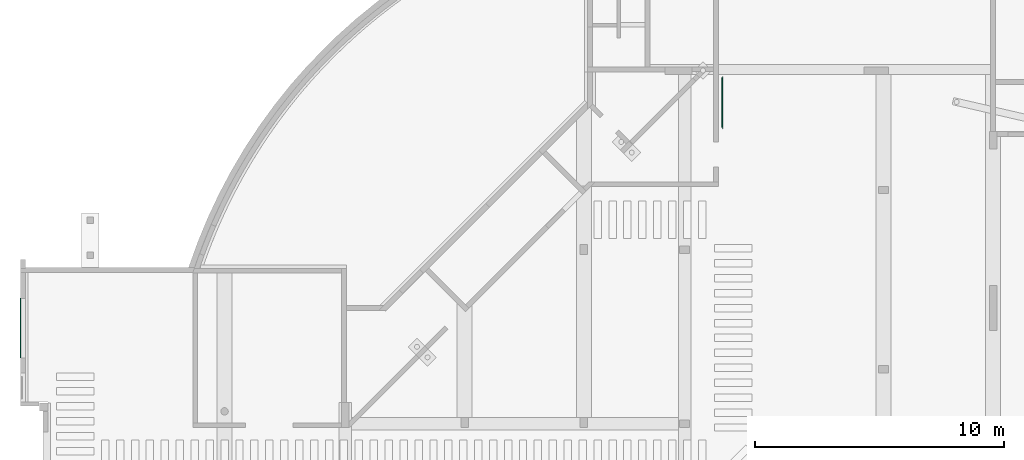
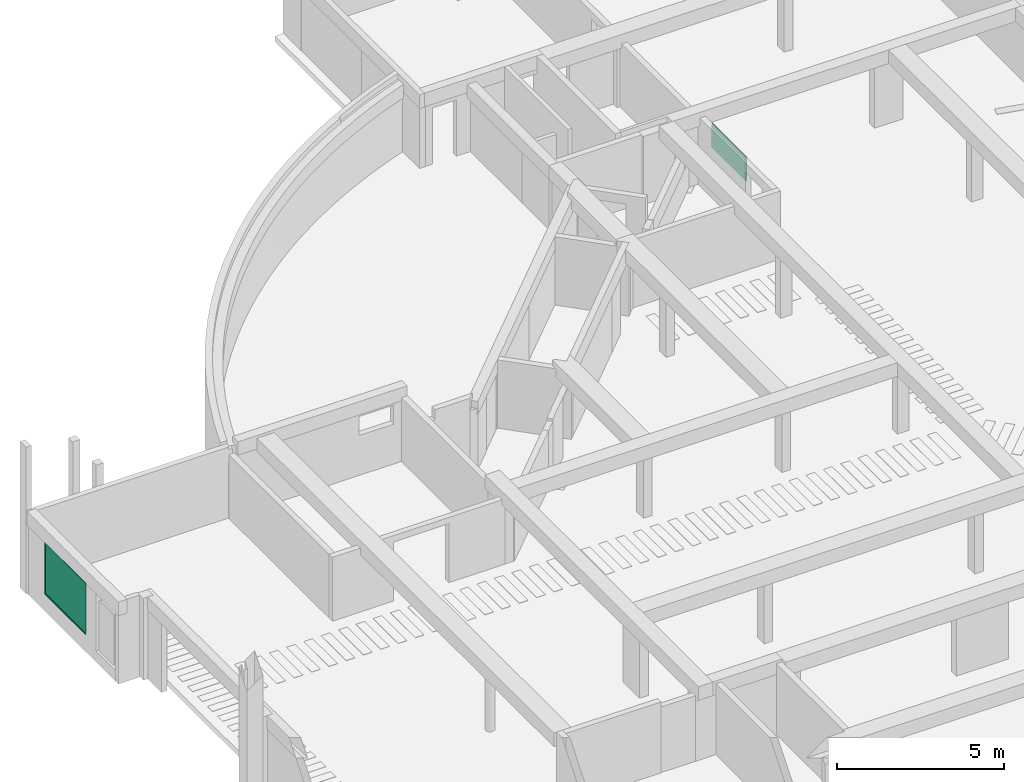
# One storey, part 12 of 12: 2 air terminals.
"""IFC4X3_ADD2 building model written with IfcOpenShell, lengths in millimetres."""

from ifc_helpers import new_model, si_unit, direction, frame, origin_with_axes, place, context, subcontext, project, spatial, polygons, source, transform, mapped, element, save


model = new_model("IFC4X3_ADD2")

# Units and contexts
model_context = context("Model", 3, precision=1e-05, world=origin_with_axes(), true_north=direction((0.0, 1.0)))
body_context = subcontext(model_context, "Body", "Model", "MODEL_VIEW")
ifc_project = project(units=[si_unit("LENGTHUNIT", "METRE", prefix="MILLI"), si_unit("AREAUNIT", "SQUARE_METRE"), si_unit("VOLUMEUNIT", "CUBIC_METRE"), si_unit("PLANEANGLEUNIT", "RADIAN"), si_unit("TIMEUNIT", "SECOND"), si_unit("MASSUNIT", "GRAM")], contexts=[model_context])

# Site, building, storey
site_placement = place(None, origin_with_axes())
site = spatial("IfcSite", under=ifc_project, at=site_placement, Name="Site", CompositionType="ELEMENT")
building_placement = place(site_placement, origin_with_axes())
building = spatial("IfcBuilding", under=site, at=building_placement, Name="IFC Building Story")
storey_placement = place(building_placement, frame((0.0, 0.0, -5940.0), z_axis=(0.0, 0.0, 1.0), x_axis=(1.0, 0.0, 0.0)))
storey = spatial("IfcBuildingStorey", under=building, at=storey_placement, Name="K20", Elevation=-5940.0)

# Air terminals
shared_shape_1 = source(origin_with_axes(), body_context, "Body", "Tessellation", [
    polygons([(1.73258740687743e-11, 2050.00000000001, 50.0), (50.0000000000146, 2050.00000000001, 50.0), (50.0000000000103, 2050.00000000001, 850.000000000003), (1.29944055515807e-11, 2050.00000000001, 850.000000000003), (45.0000000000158, 2055.00000000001, 45.0), (40.0000000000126, 2055.00000000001, 45.0), (1.29944055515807e-11, 2055.00000000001, 45.0), (1.29944055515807e-11, 2055.00000000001, 855.000000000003), (40.0000000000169, 2055.00000000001, 855.000000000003), (45.0000000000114, 2055.00000000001, 855.000000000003), (50.0000000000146, 2100.0, 0.0), (45.0000000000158, 2100.0, 0.0), (45.0000000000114, 2100.00000000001, 900.000000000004), (50.0000000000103, 2100.0, 900.000000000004), (50.0000000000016, 50.0000000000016, 850.000000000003), (4.33146851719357e-12, 50.0000000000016, 850.000000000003), (4.33146851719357e-12, 45.0000000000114, 855.000000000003), (40.0000000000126, 45.0000000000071, 855.000000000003), (45.0000000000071, 45.0000000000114, 855.000000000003), (45.0000000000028, 8.66293703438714e-12, 900.000000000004), (50.000000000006, 4.33146851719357e-12, 900.000000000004), (50.000000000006, 50.0000000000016, 50.0), (4.33146851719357e-12, 50.0000000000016, 50.0), (4.33146851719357e-12, 45.0000000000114, 45.0), (40.0000000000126, 45.0000000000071, 45.0), (45.0000000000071, 45.0000000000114, 45.0), (45.0000000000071, 4.33146851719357e-12, 0.0), (50.000000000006, 4.33146851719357e-12, 0.0)], [[[1, 2, 3, 4]], [[6, 7, 8]], [[6, 8, 9]], [[9, 10, 5]], [[9, 5, 6]], [[11, 12, 13, 14]], [[4, 3, 15, 16]], [[9, 8, 17]], [[9, 17, 18]], [[18, 19, 10]], [[18, 10, 9]], [[14, 13, 20, 21]], [[16, 15, 22, 23]], [[18, 17, 24]], [[18, 24, 25]], [[25, 26, 19]], [[25, 19, 18]], [[21, 20, 27, 28]], [[23, 22, 2, 1]], [[1, 4, 8]], [[1, 8, 7]], [[7, 24, 23]], [[7, 23, 1]], [[24, 17, 16]], [[24, 16, 23]], [[17, 8, 4]], [[17, 4, 16]], [[25, 24, 7]], [[25, 7, 6]], [[6, 5, 26]], [[6, 26, 25]], [[5, 10, 13]], [[5, 13, 12]], [[12, 27, 26]], [[12, 26, 5]], [[27, 20, 19]], [[27, 19, 26]], [[20, 13, 10]], [[20, 10, 19]], [[28, 27, 12, 11]], [[3, 2, 11]], [[3, 11, 14]], [[14, 21, 15]], [[14, 15, 3]], [[21, 28, 22]], [[21, 22, 15]], [[28, 11, 2]], [[28, 2, 22]]]),
    polygons([(1.29944055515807e-11, 2050.00000000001, 50.0), (4.33146851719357e-12, 50.0000000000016, 50.0), (4.33146851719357e-12, 50.0000000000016, 850.000000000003), (1.29944055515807e-11, 2050.00000000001, 850.000000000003), (40.0000000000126, 2050.00000000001, 50.0), (40.0000000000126, 2050.00000000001, 850.000000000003), (40.0000000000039, 50.0000000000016, 850.000000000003), (40.0000000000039, 50.0000000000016, 50.0)], [[[1, 2, 3, 4]], [[5, 6, 7, 8]], [[1, 4, 6, 5]], [[4, 3, 7, 6]], [[3, 2, 8, 7]], [[2, 1, 5, 8]]]),
])
air_terminal_1_placement = place(storey_placement, frame((-23515.0, 36311.509732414, 1350.0), z_axis=(0.0, 0.0, 1.0), x_axis=(1.0, 0.0, 0.0)))
element("IfcAirTerminal", 1, at=air_terminal_1_placement, inside=storey, Name="BB_07.14.11#01_Buitenrooster_GMO:2000 x 800 mm", ObjectType="BB_07.14.11#01_Buitenrooster_GMO:2000 x 800 mm", PredefinedType="GRILLE", context=body_context, shape_type="MappedRepresentation", body=[
    mapped(shared_shape_1, transform((0.0, 0.0, 0.0))),
])
shared_shape_2 = source(origin_with_axes(), body_context, "Body", "Tessellation", [
    polygons([(50.000000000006, 49.9999999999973, 49.9999999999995), (8.66293703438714e-12, 49.9999999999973, 49.9999999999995), (0.0, 49.9999999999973, 1850.0), (50.000000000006, 49.9999999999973, 1850.0), (5.00000000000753, 45.0000000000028, 44.9999999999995), (10.0000000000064, 45.0000000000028, 44.9999999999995), (30.0000000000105, 45.0000000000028, 44.9999999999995), (50.000000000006, 44.9999999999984, 44.9999999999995), (49.9999999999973, 44.9999999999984, 1855.0), (30.0000000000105, 44.9999999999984, 1855.0), (10.0000000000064, 44.9999999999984, 1855.0), (5.00000000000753, 45.0000000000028, 1855.0), (8.66293703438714e-12, -4.33146851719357e-12, 0.0), (5.00000000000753, -4.33146851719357e-12, 0.0), (4.99999999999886, -4.33146851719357e-12, 1900.0), (0.0, -4.33146851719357e-12, 1900.0), (1.73258740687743e-11, 2449.99999999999, 1850.0), (50.0000000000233, 2449.99999999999, 1850.0), (50.0000000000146, 2455.0, 1855.0), (30.0000000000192, 2455.0, 1855.0), (10.0000000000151, 2455.0, 1855.0), (5.00000000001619, 2455.0, 1855.0), (5.00000000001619, 2500.0, 1900.0), (2.59888111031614e-11, 2500.0, 1900.0), (2.59888111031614e-11, 2449.99999999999, 49.9999999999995), (50.0000000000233, 2449.99999999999, 49.9999999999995), (50.0000000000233, 2455.0, 44.9999999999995), (30.0000000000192, 2455.0, 44.9999999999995), (10.0000000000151, 2455.0, 44.9999999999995), (5.00000000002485, 2455.0, 44.9999999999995), (5.00000000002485, 2500.0, 0.0), (2.59888111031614e-11, 2500.0, 0.0)], [[[1, 2, 3, 4]], [[7, 8, 9]], [[7, 9, 10]], [[10, 11, 6]], [[10, 6, 7]], [[11, 12, 5]], [[11, 5, 6]], [[13, 14, 15, 16]], [[4, 3, 17, 18]], [[10, 9, 19]], [[10, 19, 20]], [[20, 21, 11]], [[20, 11, 10]], [[21, 22, 12]], [[21, 12, 11]], [[16, 15, 23, 24]], [[18, 17, 25, 26]], [[20, 19, 27]], [[20, 27, 28]], [[28, 29, 21]], [[28, 21, 20]], [[29, 30, 22]], [[29, 22, 21]], [[24, 23, 31, 32]], [[26, 25, 2, 1]], [[1, 4, 9]], [[1, 9, 8]], [[8, 27, 26]], [[8, 26, 1]], [[27, 19, 18]], [[27, 18, 26]], [[19, 9, 4]], [[19, 4, 18]], [[28, 27, 8]], [[28, 8, 7]], [[7, 6, 29]], [[7, 29, 28]], [[6, 5, 30]], [[6, 30, 29]], [[5, 12, 15]], [[5, 15, 14]], [[14, 31, 30]], [[14, 30, 5]], [[31, 23, 22]], [[31, 22, 30]], [[23, 15, 12]], [[23, 12, 22]], [[32, 31, 14, 13]], [[3, 2, 13]], [[3, 13, 16]], [[16, 24, 17]], [[16, 17, 3]], [[24, 32, 25]], [[24, 25, 17]], [[32, 13, 2]], [[32, 2, 25]]]),
    polygons([(50.000000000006, 49.9999999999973, 49.9999999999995), (50.0000000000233, 2449.99999999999, 49.9999999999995), (50.0000000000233, 2449.99999999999, 1850.0), (50.000000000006, 49.9999999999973, 1850.0), (9.99999999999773, 49.9999999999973, 49.9999999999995), (9.99999999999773, 49.9999999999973, 1850.0), (10.0000000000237, 2449.99999999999, 1850.0), (10.0000000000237, 2449.99999999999, 49.9999999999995)], [[[1, 2, 3, 4]], [[5, 6, 7, 8]], [[1, 4, 6, 5]], [[4, 3, 7, 6]], [[3, 2, 8, 7]], [[2, 1, 5, 8]]]),
])
air_terminal_2_placement = place(storey_placement, frame((-51725.0, 27045.0, 250.0), z_axis=(0.0, 0.0, 1.0), x_axis=(1.0, 0.0, 0.0)))
element("IfcAirTerminal", 2, at=air_terminal_2_placement, inside=storey, Name="BB_07.14.11#01_Buitenrooster_GMO:2400 x 1800 mm", ObjectType="BB_07.14.11#01_Buitenrooster_GMO:2400 x 1800 mm", PredefinedType="GRILLE", context=body_context, shape_type="MappedRepresentation", body=[
    mapped(shared_shape_2, transform((0.0, 0.0, 0.0))),
])

save(model, "model.ifc")
